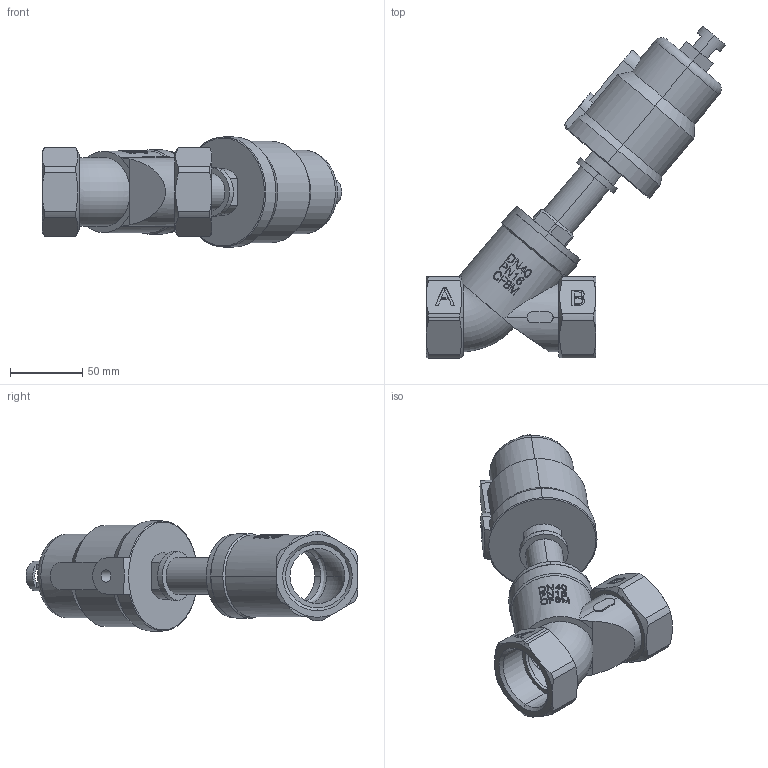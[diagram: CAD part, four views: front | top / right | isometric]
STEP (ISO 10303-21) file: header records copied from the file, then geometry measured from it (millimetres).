
FILE_DESCRIPTION (( 'STEP AP203' ), '1' );
FILE_NAME ('蚾饜极101S4063.STEP', '2024-07-22T08:51:15', ( 'Windows 蚚誧' ), ( 'Microsoft' ), 'SwSTEP 2.0', 'SolidWorks 2018', '' );
FILE_SCHEMA (( 'CONFIG_CONTROL_DESIGN' ));
Length unit declared in the file: millimetre
Products named in the file (5): 蚾饜极101S4063; 弝敦; DN40 概极; DN40 蟀諉翐; SS 63戚
Assembly tree (4 placements, depth 2):
  蚾饜极101S4063
    DN40 概极
    DN40 蟀諉翐
    SS 63戚
    弝敦
Bounding box: 206.69 x 229.23 x 76 mm (x, y, z)
Volume: 532618 mm3; surface area: 99571.9 mm2
Topology: 4 solids, 4 shells, 429 faces, 1118 edges, 731 vertices
Faces by surface type: bspline 170, cylinder 107, plane 107, cone 40, torus 5
Entity records: 31026 total; most frequent: CARTESIAN_POINT 21500, ORIENTED_EDGE 2232, DIRECTION 1261, EDGE_CURVE 1116, VERTEX_POINT 731, B_SPLINE_CURVE_WITH_KNOTS 584, AXIS2_PLACEMENT_3D 486, EDGE_LOOP 475
